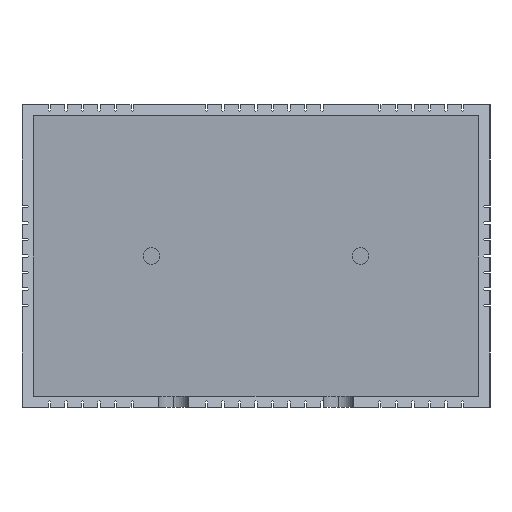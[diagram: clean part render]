
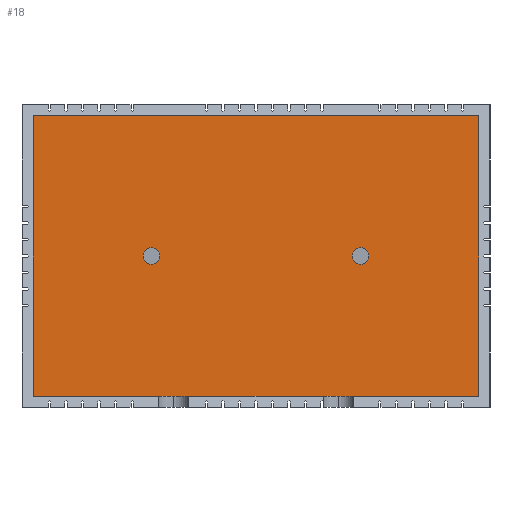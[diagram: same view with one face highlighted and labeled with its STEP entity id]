
A CAD part, left-side view. The second image highlights one B-rep face of the part: STEP entity #18.
In plain terms, the highlighted planar face has unit normal (-1, 0, 0).
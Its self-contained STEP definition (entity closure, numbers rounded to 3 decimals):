
#1 = EDGE_CURVE ( 'NONE', #276, #1505, #2320, .T. ) ;
#18 = ADVANCED_FACE ( 'NONE', ( #3781, #8066, #2421 ), #3124, .F. ) ;
#50 = LINE ( 'NONE', #2857, #586 ) ;
#101 = EDGE_CURVE ( 'NONE', #1505, #276, #2927, .T. ) ;
#212 = DIRECTION ( 'NONE',  ( 1., 0., 0. ) ) ;
#276 = VERTEX_POINT ( 'NONE', #9082 ) ;
#386 = CIRCLE ( 'NONE', #4839, 1.5 ) ;
#463 = DIRECTION ( 'NONE',  ( 0., 0., -1. ) ) ;
#503 = CARTESIAN_POINT ( 'NONE',  ( -193.154, -19., 0. ) ) ;
#509 = CARTESIAN_POINT ( 'NONE',  ( -193.154, 19., 0. ) ) ;
#586 = VECTOR ( 'NONE', #4300, 1000. ) ;
#713 = AXIS2_PLACEMENT_3D ( 'NONE', #509, #3335, #6162 ) ;
#758 = VERTEX_POINT ( 'NONE', #8896 ) ;
#780 = DIRECTION ( 'NONE',  ( 0., 1., 0. ) ) ;
#816 = DIRECTION ( 'NONE',  ( -1., 0., 0. ) ) ;
#934 = ORIENTED_EDGE ( 'NONE', *, *, #101, .F. ) ;
#952 = DIRECTION ( 'NONE',  ( -1., 0., 0. ) ) ;
#1505 = VERTEX_POINT ( 'NONE', #2838 ) ;
#1586 = VECTOR ( 'NONE', #6579, 1000. ) ;
#1683 = EDGE_CURVE ( 'NONE', #7597, #2069, #50, .T. ) ;
#1696 = EDGE_CURVE ( 'NONE', #8830, #2850, #7727, .T. ) ;
#1913 = VERTEX_POINT ( 'NONE', #6297 ) ;
#1914 = VECTOR ( 'NONE', #780, 1000. ) ;
#2069 = VERTEX_POINT ( 'NONE', #5953 ) ;
#2201 = CARTESIAN_POINT ( 'NONE',  ( -193.154, -19., 0. ) ) ;
#2296 = EDGE_CURVE ( 'NONE', #1913, #758, #3994, .T. ) ;
#2320 = CIRCLE ( 'NONE', #713, 1.5 ) ;
#2377 = CARTESIAN_POINT ( 'NONE',  ( -193.154, 0., 0. ) ) ;
#2421 = FACE_OUTER_BOUND ( 'NONE', #2488, .T. ) ;
#2488 = EDGE_LOOP ( 'NONE', ( #4642, #7001, #4875, #9061 ) ) ;
#2838 = CARTESIAN_POINT ( 'NONE',  ( -193.154, 19., -1.5 ) ) ;
#2850 = VERTEX_POINT ( 'NONE', #6892 ) ;
#2857 = CARTESIAN_POINT ( 'NONE',  ( -193.154, 40.5, -25.5 ) ) ;
#2927 = CIRCLE ( 'NONE', #7509, 1.5 ) ;
#2969 = VECTOR ( 'NONE', #8742, 1000. ) ;
#3124 = PLANE ( 'NONE',  #3375 ) ;
#3335 = DIRECTION ( 'NONE',  ( -1., 0., 0. ) ) ;
#3343 = EDGE_CURVE ( 'NONE', #8830, #2069, #4544, .T. ) ;
#3375 = AXIS2_PLACEMENT_3D ( 'NONE', #2377, #212, #5957 ) ;
#3781 = FACE_BOUND ( 'NONE', #4738, .T. ) ;
#3994 = CIRCLE ( 'NONE', #6794, 1.5 ) ;
#4300 = DIRECTION ( 'NONE',  ( 0., -1., 0. ) ) ;
#4544 = LINE ( 'NONE', #8611, #2969 ) ;
#4603 = LINE ( 'NONE', #7371, #1586 ) ;
#4642 = ORIENTED_EDGE ( 'NONE', *, *, #1683, .T. ) ;
#4738 = EDGE_LOOP ( 'NONE', ( #8772, #7045 ) ) ;
#4839 = AXIS2_PLACEMENT_3D ( 'NONE', #2201, #816, #8589 ) ;
#4875 = ORIENTED_EDGE ( 'NONE', *, *, #1696, .T. ) ;
#5219 = DIRECTION ( 'NONE',  ( 0., 0., -1. ) ) ;
#5377 = CARTESIAN_POINT ( 'NONE',  ( -193.154, 40.5, -25.5 ) ) ;
#5897 = CARTESIAN_POINT ( 'NONE',  ( -193.154, -40.5, 25.5 ) ) ;
#5953 = CARTESIAN_POINT ( 'NONE',  ( -193.154, -40.5, -25.5 ) ) ;
#5957 = DIRECTION ( 'NONE',  ( 0., 0., -1. ) ) ;
#6162 = DIRECTION ( 'NONE',  ( 0., 0., -1. ) ) ;
#6297 = CARTESIAN_POINT ( 'NONE',  ( -193.154, -19., 1.5 ) ) ;
#6579 = DIRECTION ( 'NONE',  ( 0., 0., -1. ) ) ;
#6666 = EDGE_LOOP ( 'NONE', ( #934, #6963 ) ) ;
#6794 = AXIS2_PLACEMENT_3D ( 'NONE', #503, #6802, #463 ) ;
#6802 = DIRECTION ( 'NONE',  ( -1., 0., 0. ) ) ;
#6892 = CARTESIAN_POINT ( 'NONE',  ( -193.154, 40.5, 25.5 ) ) ;
#6963 = ORIENTED_EDGE ( 'NONE', *, *, #1, .F. ) ;
#7001 = ORIENTED_EDGE ( 'NONE', *, *, #3343, .F. ) ;
#7045 = ORIENTED_EDGE ( 'NONE', *, *, #2296, .F. ) ;
#7165 = CARTESIAN_POINT ( 'NONE',  ( -193.154, 0., 25.5 ) ) ;
#7298 = CARTESIAN_POINT ( 'NONE',  ( -193.154, 19., 0. ) ) ;
#7371 = CARTESIAN_POINT ( 'NONE',  ( -193.154, 40.5, 25.5 ) ) ;
#7509 = AXIS2_PLACEMENT_3D ( 'NONE', #7298, #952, #5219 ) ;
#7597 = VERTEX_POINT ( 'NONE', #5377 ) ;
#7727 = LINE ( 'NONE', #7165, #1914 ) ;
#8066 = FACE_BOUND ( 'NONE', #6666, .T. ) ;
#8294 = EDGE_CURVE ( 'NONE', #758, #1913, #386, .T. ) ;
#8589 = DIRECTION ( 'NONE',  ( 0., 0., -1. ) ) ;
#8611 = CARTESIAN_POINT ( 'NONE',  ( -193.154, -40.5, 0. ) ) ;
#8742 = DIRECTION ( 'NONE',  ( 0., 0., -1. ) ) ;
#8748 = EDGE_CURVE ( 'NONE', #2850, #7597, #4603, .T. ) ;
#8772 = ORIENTED_EDGE ( 'NONE', *, *, #8294, .F. ) ;
#8830 = VERTEX_POINT ( 'NONE', #5897 ) ;
#8896 = CARTESIAN_POINT ( 'NONE',  ( -193.154, -19., -1.5 ) ) ;
#9061 = ORIENTED_EDGE ( 'NONE', *, *, #8748, .T. ) ;
#9082 = CARTESIAN_POINT ( 'NONE',  ( -193.154, 19., 1.5 ) ) ;
